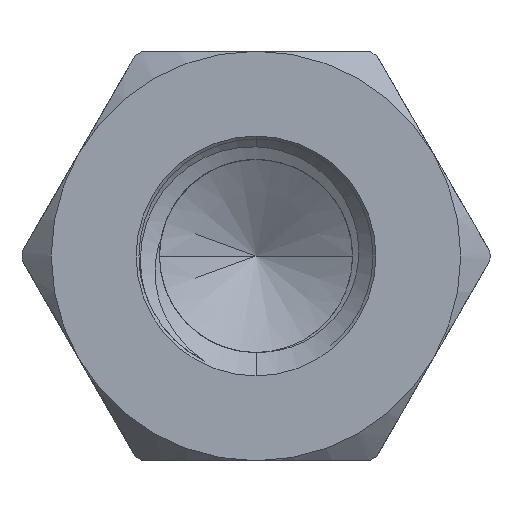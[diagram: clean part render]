
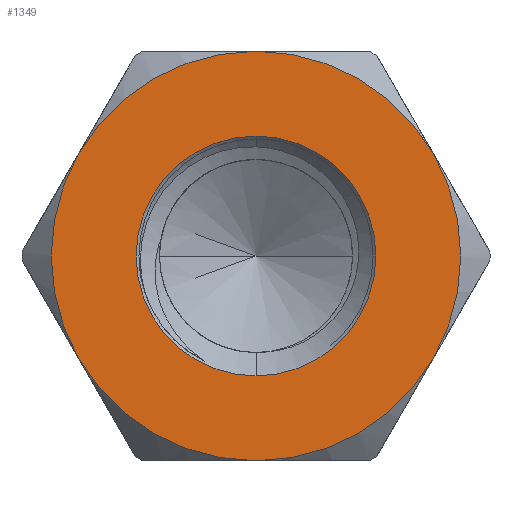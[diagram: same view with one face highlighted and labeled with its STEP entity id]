
A CAD part, front view. The second image highlights one B-rep face of the part: STEP entity #1349.
In plain terms, the highlighted planar face has unit normal (0, -1, 0).
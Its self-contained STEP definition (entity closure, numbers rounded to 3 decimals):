
#14 = DIRECTION ( 'NONE',  ( 0., 0., 1. ) ) ;
#190 = ORIENTED_EDGE ( 'NONE', *, *, #5445, .T. ) ;
#251 = DIRECTION ( 'NONE',  ( 0., 0., -1. ) ) ;
#327 = CARTESIAN_POINT ( 'NONE',  ( 0., 0., 0. ) ) ;
#339 = EDGE_CURVE ( 'NONE', #9002, #5937, #10199, .T. ) ;
#511 = CIRCLE ( 'NONE', #3927, 2.05 ) ;
#580 = ORIENTED_EDGE ( 'NONE', *, *, #2716, .T. ) ;
#867 = DIRECTION ( 'NONE',  ( 0., 0., -1. ) ) ;
#1043 = AXIS2_PLACEMENT_3D ( 'NONE', #5318, #4491, #8655 ) ;
#1302 = DIRECTION ( 'NONE',  ( 0., 0., -1. ) ) ;
#1306 = VERTEX_POINT ( 'NONE', #7504 ) ;
#1349 = ADVANCED_FACE ( 'NONE', ( #2539, #3277 ), #9485, .F. ) ;
#1428 = CIRCLE ( 'NONE', #9498, 3.5 ) ;
#1671 = CARTESIAN_POINT ( 'NONE',  ( 0., 0., 0. ) ) ;
#2002 = VERTEX_POINT ( 'NONE', #2599 ) ;
#2101 = CARTESIAN_POINT ( 'NONE',  ( 3.031, 0., -1.75 ) ) ;
#2386 = EDGE_CURVE ( 'NONE', #5937, #7342, #2425, .T. ) ;
#2425 = CIRCLE ( 'NONE', #5367, 3.5 ) ;
#2539 = FACE_BOUND ( 'NONE', #8599, .T. ) ;
#2599 = CARTESIAN_POINT ( 'NONE',  ( 3.031, 0., 1.75 ) ) ;
#2716 = EDGE_CURVE ( 'NONE', #1306, #5587, #1428, .T. ) ;
#2882 = VERTEX_POINT ( 'NONE', #9701 ) ;
#3086 = CARTESIAN_POINT ( 'NONE',  ( -3.031, 0., 1.75 ) ) ;
#3184 = CIRCLE ( 'NONE', #8738, 3.5 ) ;
#3216 = CARTESIAN_POINT ( 'NONE',  ( 0., 0., 0. ) ) ;
#3277 = FACE_OUTER_BOUND ( 'NONE', #8379, .T. ) ;
#3286 = DIRECTION ( 'NONE',  ( 0., -1., 0. ) ) ;
#3645 = CIRCLE ( 'NONE', #7764, 2.05 ) ;
#3713 = EDGE_CURVE ( 'NONE', #7342, #2002, #8774, .T. ) ;
#3745 = VERTEX_POINT ( 'NONE', #9481 ) ;
#3822 = AXIS2_PLACEMENT_3D ( 'NONE', #3216, #3286, #14 ) ;
#3927 = AXIS2_PLACEMENT_3D ( 'NONE', #327, #9163, #251 ) ;
#3941 = ORIENTED_EDGE ( 'NONE', *, *, #339, .T. ) ;
#4004 = DIRECTION ( 'NONE',  ( 0., 0., 1. ) ) ;
#4293 = EDGE_CURVE ( 'NONE', #2882, #3745, #511, .T. ) ;
#4434 = ORIENTED_EDGE ( 'NONE', *, *, #4293, .F. ) ;
#4485 = CARTESIAN_POINT ( 'NONE',  ( 0., 0., 0. ) ) ;
#4491 = DIRECTION ( 'NONE',  ( 0., 1., 0. ) ) ;
#4501 = EDGE_CURVE ( 'NONE', #3745, #2882, #3645, .T. ) ;
#4656 = DIRECTION ( 'NONE',  ( 0., -1., 0. ) ) ;
#4676 = DIRECTION ( 'NONE',  ( 0., -1., 0. ) ) ;
#4753 = AXIS2_PLACEMENT_3D ( 'NONE', #4485, #10179, #5314 ) ;
#5314 = DIRECTION ( 'NONE',  ( 0., 0., 1. ) ) ;
#5318 = CARTESIAN_POINT ( 'NONE',  ( 0., 0., 0. ) ) ;
#5367 = AXIS2_PLACEMENT_3D ( 'NONE', #1671, #9041, #867 ) ;
#5439 = DIRECTION ( 'NONE',  ( 0., 0., 1. ) ) ;
#5445 = EDGE_CURVE ( 'NONE', #2002, #1306, #3184, .T. ) ;
#5587 = VERTEX_POINT ( 'NONE', #3086 ) ;
#5609 = CARTESIAN_POINT ( 'NONE',  ( 0., 0., 0. ) ) ;
#5937 = VERTEX_POINT ( 'NONE', #6952 ) ;
#5981 = ORIENTED_EDGE ( 'NONE', *, *, #2386, .T. ) ;
#6190 = CARTESIAN_POINT ( 'NONE',  ( 0., 0., 0. ) ) ;
#6200 = ORIENTED_EDGE ( 'NONE', *, *, #4501, .F. ) ;
#6485 = ORIENTED_EDGE ( 'NONE', *, *, #3713, .T. ) ;
#6889 = CIRCLE ( 'NONE', #3822, 3.5 ) ;
#6935 = EDGE_CURVE ( 'NONE', #5587, #9002, #6889, .T. ) ;
#6952 = CARTESIAN_POINT ( 'NONE',  ( 0., 0., -3.5 ) ) ;
#7067 = CARTESIAN_POINT ( 'NONE',  ( 0., 0., 0. ) ) ;
#7342 = VERTEX_POINT ( 'NONE', #2101 ) ;
#7504 = CARTESIAN_POINT ( 'NONE',  ( 0., 0., 3.5 ) ) ;
#7764 = AXIS2_PLACEMENT_3D ( 'NONE', #10242, #9411, #1302 ) ;
#7893 = ORIENTED_EDGE ( 'NONE', *, *, #6935, .T. ) ;
#8379 = EDGE_LOOP ( 'NONE', ( #190, #580, #7893, #3941, #5981, #6485 ) ) ;
#8599 = EDGE_LOOP ( 'NONE', ( #6200, #4434 ) ) ;
#8655 = DIRECTION ( 'NONE',  ( 0., 0., 1. ) ) ;
#8738 = AXIS2_PLACEMENT_3D ( 'NONE', #7067, #10305, #5439 ) ;
#8774 = CIRCLE ( 'NONE', #4753, 3.5 ) ;
#9002 = VERTEX_POINT ( 'NONE', #9878 ) ;
#9041 = DIRECTION ( 'NONE',  ( 0., -1., 0. ) ) ;
#9163 = DIRECTION ( 'NONE',  ( 0., -1., 0. ) ) ;
#9411 = DIRECTION ( 'NONE',  ( 0., -1., 0. ) ) ;
#9481 = CARTESIAN_POINT ( 'NONE',  ( 0., 0., -2.05 ) ) ;
#9485 = PLANE ( 'NONE',  #1043 ) ;
#9498 = AXIS2_PLACEMENT_3D ( 'NONE', #5609, #4676, #4004 ) ;
#9701 = CARTESIAN_POINT ( 'NONE',  ( 0., 0., 2.05 ) ) ;
#9878 = CARTESIAN_POINT ( 'NONE',  ( -3.031, 0., -1.75 ) ) ;
#10145 = AXIS2_PLACEMENT_3D ( 'NONE', #6190, #4656, #10277 ) ;
#10179 = DIRECTION ( 'NONE',  ( 0., -1., 0. ) ) ;
#10199 = CIRCLE ( 'NONE', #10145, 3.5 ) ;
#10242 = CARTESIAN_POINT ( 'NONE',  ( 0., 0., 0. ) ) ;
#10277 = DIRECTION ( 'NONE',  ( 0., 0., 1. ) ) ;
#10305 = DIRECTION ( 'NONE',  ( 0., -1., 0. ) ) ;
